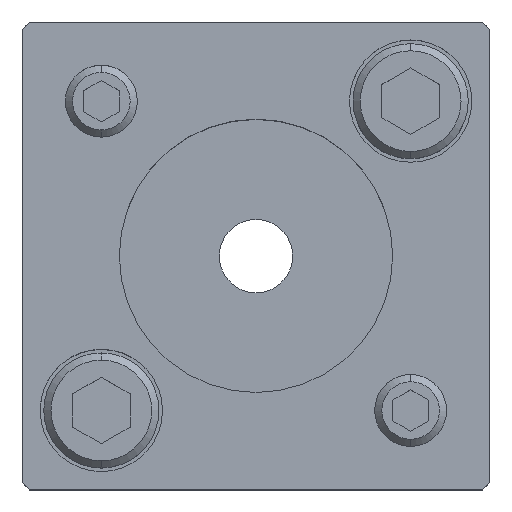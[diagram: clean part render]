
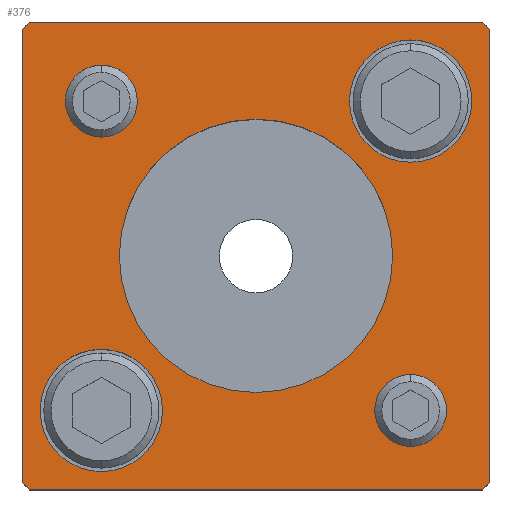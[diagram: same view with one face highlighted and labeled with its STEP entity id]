
A CAD part, top view. The second image highlights one B-rep face of the part: STEP entity #376.
In plain terms, the highlighted planar face has unit normal (0, 0, 1).
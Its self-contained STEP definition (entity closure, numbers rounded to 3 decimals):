
#139=PLANE('',#2852);
#200=FACE_BOUND('',#707,.T.);
#201=FACE_BOUND('',#708,.T.);
#202=FACE_BOUND('',#709,.T.);
#203=FACE_BOUND('',#710,.T.);
#204=FACE_BOUND('',#711,.T.);
#205=FACE_BOUND('',#712,.T.);
#376=ADVANCED_FACE('',(#200,#201,#202,#203,#204,#205),#139,.T.);
#707=EDGE_LOOP('',(#1263,#1264,#1265,#1266,#1267,#1268,#1269,#1270));
#708=EDGE_LOOP('',(#1271,#1272));
#709=EDGE_LOOP('',(#1273,#1274));
#710=EDGE_LOOP('',(#1275,#1276));
#711=EDGE_LOOP('',(#1277,#1278));
#712=EDGE_LOOP('',(#1279,#1280));
#881=CIRCLE('',#2822,5.);
#883=CIRCLE('',#2825,5.);
#885=CIRCLE('',#2828,5.);
#887=CIRCLE('',#2831,5.);
#897=CIRCLE('',#2846,8.5);
#898=CIRCLE('',#2847,8.5);
#899=CIRCLE('',#2848,8.5);
#900=CIRCLE('',#2849,8.5);
#901=CIRCLE('',#2850,19.);
#902=CIRCLE('',#2851,19.);
#1263=ORIENTED_EDGE('',*,*,#2069,.T.);
#1264=ORIENTED_EDGE('',*,*,#2070,.T.);
#1265=ORIENTED_EDGE('',*,*,#2071,.T.);
#1266=ORIENTED_EDGE('',*,*,#2072,.T.);
#1267=ORIENTED_EDGE('',*,*,#2073,.T.);
#1268=ORIENTED_EDGE('',*,*,#2074,.T.);
#1269=ORIENTED_EDGE('',*,*,#2075,.T.);
#1270=ORIENTED_EDGE('',*,*,#2076,.T.);
#1271=ORIENTED_EDGE('',*,*,#2077,.F.);
#1272=ORIENTED_EDGE('',*,*,#2078,.F.);
#1273=ORIENTED_EDGE('',*,*,#2079,.F.);
#1274=ORIENTED_EDGE('',*,*,#2080,.F.);
#1275=ORIENTED_EDGE('',*,*,#2055,.F.);
#1276=ORIENTED_EDGE('',*,*,#2051,.F.);
#1277=ORIENTED_EDGE('',*,*,#2049,.F.);
#1278=ORIENTED_EDGE('',*,*,#2045,.F.);
#1279=ORIENTED_EDGE('',*,*,#2081,.T.);
#1280=ORIENTED_EDGE('',*,*,#2082,.T.);
#1763=VERTEX_POINT('',#4143);
#1764=VERTEX_POINT('',#4144);
#1767=VERTEX_POINT('',#4155);
#1768=VERTEX_POINT('',#4156);
#1779=VERTEX_POINT('',#4191);
#1780=VERTEX_POINT('',#4192);
#1781=VERTEX_POINT('',#4194);
#1782=VERTEX_POINT('',#4196);
#1783=VERTEX_POINT('',#4198);
#1784=VERTEX_POINT('',#4200);
#1785=VERTEX_POINT('',#4202);
#1786=VERTEX_POINT('',#4204);
#1787=VERTEX_POINT('',#4207);
#1788=VERTEX_POINT('',#4208);
#1789=VERTEX_POINT('',#4211);
#1790=VERTEX_POINT('',#4212);
#1791=VERTEX_POINT('',#4215);
#1792=VERTEX_POINT('',#4216);
#2045=EDGE_CURVE('',#1763,#1764,#881,.T.);
#2049=EDGE_CURVE('',#1764,#1763,#883,.T.);
#2051=EDGE_CURVE('',#1767,#1768,#885,.T.);
#2055=EDGE_CURVE('',#1768,#1767,#887,.T.);
#2069=EDGE_CURVE('',#1779,#1780,#2347,.T.);
#2070=EDGE_CURVE('',#1780,#1781,#2348,.T.);
#2071=EDGE_CURVE('',#1781,#1782,#2349,.T.);
#2072=EDGE_CURVE('',#1782,#1783,#2350,.T.);
#2073=EDGE_CURVE('',#1783,#1784,#2351,.T.);
#2074=EDGE_CURVE('',#1784,#1785,#2352,.T.);
#2075=EDGE_CURVE('',#1785,#1786,#2353,.T.);
#2076=EDGE_CURVE('',#1786,#1779,#2354,.T.);
#2077=EDGE_CURVE('',#1787,#1788,#897,.T.);
#2078=EDGE_CURVE('',#1788,#1787,#898,.T.);
#2079=EDGE_CURVE('',#1789,#1790,#899,.T.);
#2080=EDGE_CURVE('',#1790,#1789,#900,.T.);
#2081=EDGE_CURVE('',#1791,#1792,#901,.T.);
#2082=EDGE_CURVE('',#1792,#1791,#902,.T.);
#2347=LINE('',#4190,#2563);
#2348=LINE('',#4193,#2564);
#2349=LINE('',#4195,#2565);
#2350=LINE('',#4197,#2566);
#2351=LINE('',#4199,#2567);
#2352=LINE('',#4201,#2568);
#2353=LINE('',#4203,#2569);
#2354=LINE('',#4205,#2570);
#2563=VECTOR('',#3379,1.);
#2564=VECTOR('',#3380,1.);
#2565=VECTOR('',#3381,1.);
#2566=VECTOR('',#3382,1.);
#2567=VECTOR('',#3383,1.);
#2568=VECTOR('',#3384,1.);
#2569=VECTOR('',#3385,1.);
#2570=VECTOR('',#3386,1.);
#2822=AXIS2_PLACEMENT_3D('',#4142,#3323,#3324);
#2825=AXIS2_PLACEMENT_3D('',#4151,#3331,#3332);
#2828=AXIS2_PLACEMENT_3D('',#4154,#3337,#3338);
#2831=AXIS2_PLACEMENT_3D('',#4163,#3345,#3346);
#2846=AXIS2_PLACEMENT_3D('',#4206,#3387,#3388);
#2847=AXIS2_PLACEMENT_3D('',#4209,#3389,#3390);
#2848=AXIS2_PLACEMENT_3D('',#4210,#3391,#3392);
#2849=AXIS2_PLACEMENT_3D('',#4213,#3393,#3394);
#2850=AXIS2_PLACEMENT_3D('',#4214,#3395,#3396);
#2851=AXIS2_PLACEMENT_3D('',#4217,#3397,#3398);
#2852=AXIS2_PLACEMENT_3D('',#4218,#3399,#3400);
#3323=DIRECTION('',(0.,0.,1.));
#3324=DIRECTION('',(1.,0.,0.));
#3331=DIRECTION('',(0.,0.,1.));
#3332=DIRECTION('',(-1.,0.,0.));
#3337=DIRECTION('',(0.,0.,1.));
#3338=DIRECTION('',(1.,0.,0.));
#3345=DIRECTION('',(0.,0.,1.));
#3346=DIRECTION('',(-1.,0.,0.));
#3379=DIRECTION('',(1.,0.,0.));
#3380=DIRECTION('',(0.707,0.707,0.));
#3381=DIRECTION('',(0.,1.,0.));
#3382=DIRECTION('',(-0.707,0.707,0.));
#3383=DIRECTION('',(-1.,0.,0.));
#3384=DIRECTION('',(-0.707,-0.707,0.));
#3385=DIRECTION('',(0.,-1.,0.));
#3386=DIRECTION('',(0.707,-0.707,0.));
#3387=DIRECTION('',(0.,0.,1.));
#3388=DIRECTION('',(1.,0.,0.));
#3389=DIRECTION('',(0.,0.,1.));
#3390=DIRECTION('',(-1.,0.,0.));
#3391=DIRECTION('',(0.,0.,1.));
#3392=DIRECTION('',(1.,0.,0.));
#3393=DIRECTION('',(0.,0.,1.));
#3394=DIRECTION('',(-1.,0.,0.));
#3395=DIRECTION('',(0.,0.,-1.));
#3396=DIRECTION('',(-1.,0.,0.));
#3397=DIRECTION('',(0.,0.,-1.));
#3398=DIRECTION('',(1.,0.,0.));
#3399=DIRECTION('',(0.,0.,1.));
#3400=DIRECTION('',(-1.,0.,0.));
#4142=CARTESIAN_POINT('',(21.5,-21.5,35.));
#4143=CARTESIAN_POINT('',(21.5,-16.5,35.));
#4144=CARTESIAN_POINT('',(21.5,-26.5,35.));
#4151=CARTESIAN_POINT('',(21.5,-21.5,35.));
#4154=CARTESIAN_POINT('',(-21.5,21.5,35.));
#4155=CARTESIAN_POINT('',(-21.5,26.5,35.));
#4156=CARTESIAN_POINT('',(-21.5,16.5,35.));
#4163=CARTESIAN_POINT('',(-21.5,21.5,35.));
#4190=CARTESIAN_POINT('',(31.5,-32.5,35.));
#4191=CARTESIAN_POINT('',(-31.5,-32.5,35.));
#4192=CARTESIAN_POINT('',(31.5,-32.5,35.));
#4193=CARTESIAN_POINT('',(32.5,-31.5,35.));
#4194=CARTESIAN_POINT('',(32.5,-31.5,35.));
#4195=CARTESIAN_POINT('',(32.5,31.5,35.));
#4196=CARTESIAN_POINT('',(32.5,31.5,35.));
#4197=CARTESIAN_POINT('',(31.5,32.5,35.));
#4198=CARTESIAN_POINT('',(31.5,32.5,35.));
#4199=CARTESIAN_POINT('',(-31.5,32.5,35.));
#4200=CARTESIAN_POINT('',(-31.5,32.5,35.));
#4201=CARTESIAN_POINT('',(-32.5,31.5,35.));
#4202=CARTESIAN_POINT('',(-32.5,31.5,35.));
#4203=CARTESIAN_POINT('',(-32.5,-31.5,35.));
#4204=CARTESIAN_POINT('',(-32.5,-31.5,35.));
#4205=CARTESIAN_POINT('',(-32.5,-31.5,35.));
#4206=CARTESIAN_POINT('',(-21.5,-21.5,35.));
#4207=CARTESIAN_POINT('',(-21.5,-13.,35.));
#4208=CARTESIAN_POINT('',(-21.5,-30.,35.));
#4209=CARTESIAN_POINT('',(-21.5,-21.5,35.));
#4210=CARTESIAN_POINT('',(21.5,21.5,35.));
#4211=CARTESIAN_POINT('',(21.5,30.,35.));
#4212=CARTESIAN_POINT('',(21.5,13.,35.));
#4213=CARTESIAN_POINT('',(21.5,21.5,35.));
#4214=CARTESIAN_POINT('',(0.,0.,35.));
#4215=CARTESIAN_POINT('',(0.,19.,35.));
#4216=CARTESIAN_POINT('',(0.,-19.,35.));
#4217=CARTESIAN_POINT('',(0.,0.,35.));
#4218=CARTESIAN_POINT('',(-31.5,-32.5,35.));
